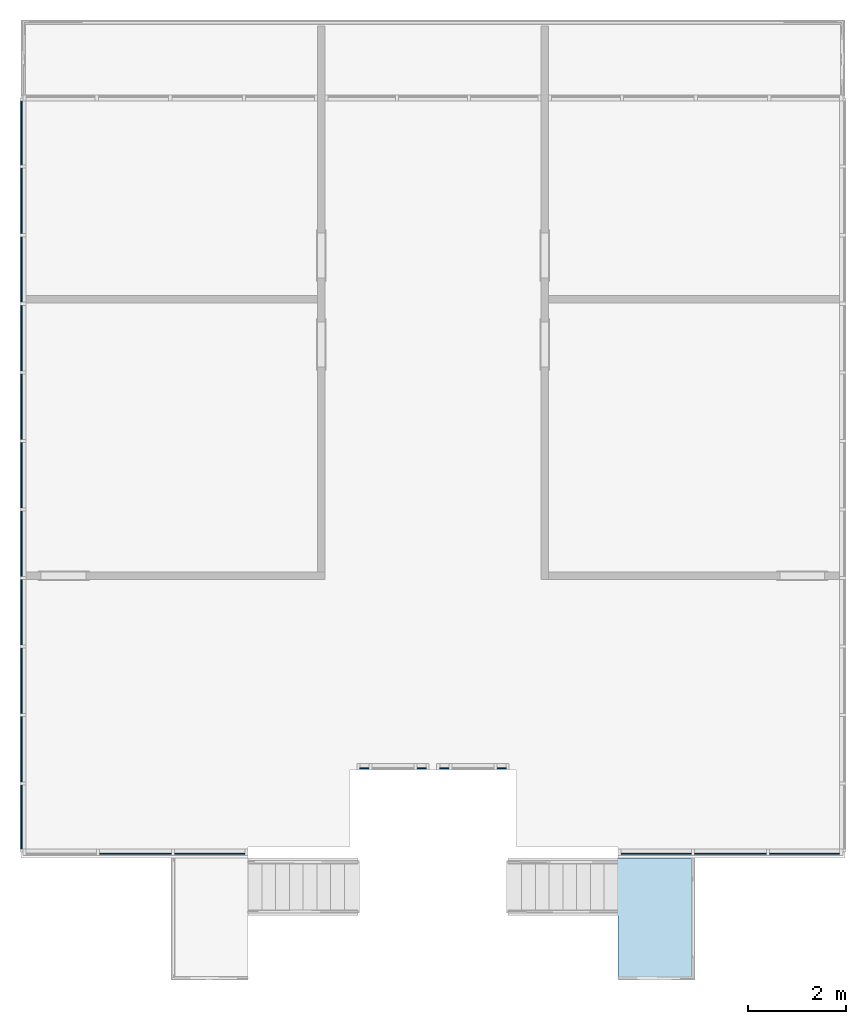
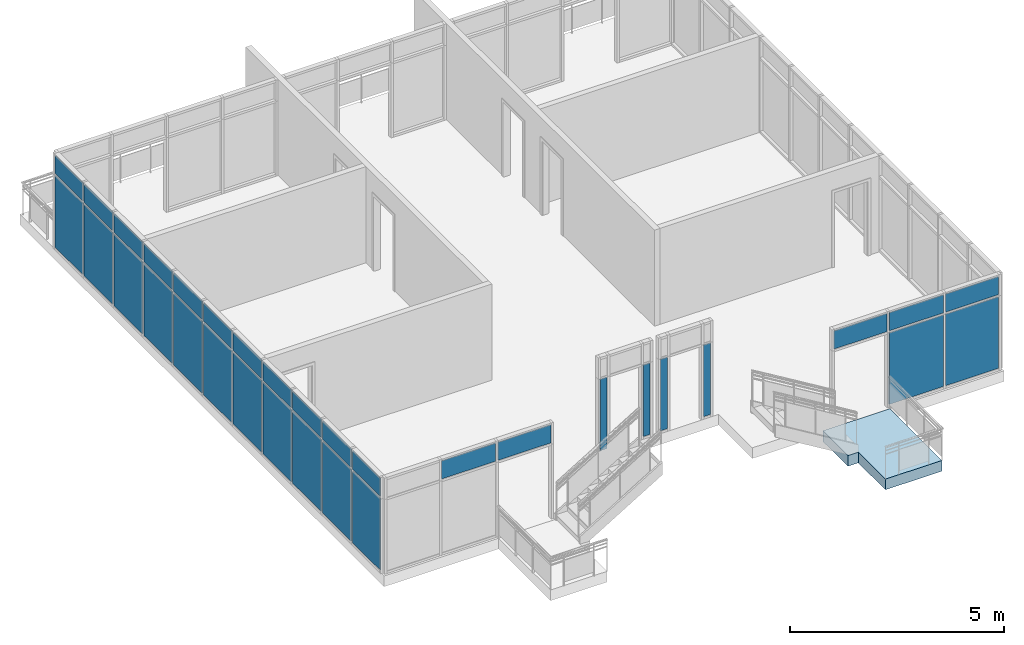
# One storey, part 5 of 11: 33 plates, 1 slab, 5 elements without a shape of their own.
"""IFC2X3 building model written with IfcOpenShell, lengths in feet."""

import ifcopenshell
import ifcopenshell.guid

model = None  # the IFC model being written
_history = None  # IfcOwnerHistory: only IFC2X3 demands one
_inside = {}  # id of a spatial element -> (the spatial element, [elements in it])
_under = {}  # id of a project, library or spatial element -> (it, [spatial elements below it])
_declared = {}  # id of a project -> (the project, [libraries it declares])
_typed = {}  # id of a type object -> (the type object, [elements of that type])
_made_of = {}  # id of a material, layer set ... -> (it, [elements and type objects made of it])


def new_model(schema):
    """Start an empty IFC model of exactly this schema.

    Asked for "IFC4X3", IfcOpenShell would pick the latest addendum, in which some entities
    have other attributes; the version numbers below select the first issue.
    IFC2X3 requires an IfcOwnerHistory on every rooted entity: one is made here for all.
    """
    global model, _history
    if schema == "IFC4X3":
        model = ifcopenshell.file(schema_version=(4, 3, 0, 0))
    else:
        model = ifcopenshell.file(schema=schema)
    _inside.clear()
    _under.clear()
    _declared.clear()
    _typed.clear()
    _made_of.clear()
    _history = None
    if model.schema == "IFC2X3":
        org = make("IfcOrganization", Name="unknown")
        user = make(
            "IfcPersonAndOrganization",
            ThePerson=make("IfcPerson", FamilyName="unknown"),
            TheOrganization=org,
        )
        app = make(
            "IfcApplication",
            ApplicationDeveloper=org,
            Version="unknown",
            ApplicationFullName="unknown",
            ApplicationIdentifier="unknown",
        )
        _history = make(
            "IfcOwnerHistory",
            OwningUser=user,
            OwningApplication=app,
            ChangeAction="ADDED",
            CreationDate=0,
        )
    return model


def make(cls, **values):
    """One entity of the class cls with the attributes given. An attribute that is None is left unset."""
    return model.create_entity(
        cls, **{name: value for name, value in values.items() if value is not None}
    )


def entity(cls, *values):
    """Any entity or typed value of the class cls, its attributes in the order of the schema. None: left unset."""
    e = model.create_entity(cls)
    for i, value in enumerate(values):
        if value is not None:
            e[i] = value
    return e


def rooted(cls, **values):
    """An entity with a GlobalId (a new one), such as an element, a storey or a relation."""
    return make(cls, GlobalId=ifcopenshell.guid.new(), OwnerHistory=_history, **values)


def si_unit(unit_type, name, prefix=None):
    """IfcSIUnit, for example si_unit("LENGTHUNIT", "METRE", prefix="MILLI")."""
    return make("IfcSIUnit", UnitType=unit_type, Prefix=prefix, Name=name)


def converted_unit(unit_type, name, factor, base, dimensions=None, offset=None):
    """IfcConversionBasedUnit, such as the inch: factor (a typed value) times the base unit."""
    return make(
        "IfcConversionBasedUnit"
        if offset is None
        else "IfcConversionBasedUnitWithOffset",
        ConversionOffset=offset,
        Dimensions=None
        if dimensions is None
        else entity("IfcDimensionalExponents", *dimensions),
        UnitType=unit_type,
        Name=name,
        ConversionFactor=make(
            "IfcMeasureWithUnit", ValueComponent=factor, UnitComponent=base
        ),
    )


def derived_unit(unit_type, elements):
    """IfcDerivedUnit: a product of units, each with its exponent."""
    return make(
        "IfcDerivedUnit",
        Elements=[
            make("IfcDerivedUnitElement", Unit=unit, Exponent=power)
            for unit, power in elements
        ],
        UnitType=unit_type,
    )


def assignment(units):
    """IfcUnitAssignment: the units of a project."""
    return None if units is None else make("IfcUnitAssignment", Units=units)


def point(xyz):
    """IfcCartesianPoint."""
    return None if xyz is None else make("IfcCartesianPoint", Coordinates=xyz)


def direction(xyz):
    """IfcDirection."""
    return None if xyz is None else make("IfcDirection", DirectionRatios=xyz)


def frame(location, z_axis=None, x_axis=None):
    """IfcAxis2Placement3D, a coordinate frame: its origin and axes. An axis left out is left unset."""
    return make(
        "IfcAxis2Placement3D",
        Location=point(location),
        Axis=direction(z_axis),
        RefDirection=direction(x_axis),
    )


def frame_2d(location, x_axis=None):
    """IfcAxis2Placement2D, a coordinate frame in the plane: its origin and x axis."""
    return make(
        "IfcAxis2Placement2D", Location=point(location), RefDirection=direction(x_axis)
    )


def origin():
    """The frame at (0, 0, 0) with its axes left unset."""
    return frame((0.0, 0.0, 0.0))


def place(relative_to, where):
    """IfcLocalPlacement: puts the frame where relative to a parent placement (None: the world)."""
    return make(
        "IfcLocalPlacement", PlacementRelTo=relative_to, RelativePlacement=where
    )


def context(
    kind, dimensions, precision=None, world=None, true_north=None, identifier=None
):
    """IfcGeometricRepresentationContext, for example the 3D "Model" context."""
    return make(
        "IfcGeometricRepresentationContext",
        ContextIdentifier=identifier,
        ContextType=kind,
        CoordinateSpaceDimension=dimensions,
        Precision=precision,
        WorldCoordinateSystem=world,
        TrueNorth=true_north,
    )


def subcontext(parent, identifier, kind, view, scale=None):
    """IfcGeometricRepresentationSubContext, for example "Body" below "Model"."""
    return make(
        "IfcGeometricRepresentationSubContext",
        ContextIdentifier=identifier,
        ContextType=kind,
        ParentContext=parent,
        TargetScale=scale,
        TargetView=view,
    )


def project(units=None, contexts=None):
    """IfcProject with its units and contexts."""
    return rooted(
        "IfcProject",
        Name="project",
        RepresentationContexts=contexts,
        UnitsInContext=assignment(units),
    )


def spatial(cls, under=None, at=None, **own):
    """A site, building, storey or space (cls), placed at a placement, below another one or the project."""
    s = rooted(cls, ObjectPlacement=at, **own)
    if under is not None:
        _under.setdefault(under.id(), (under, []))[1].append(s)
    return s


def polyline(points):
    """IfcPolyline through the points."""
    return make("IfcPolyline", Points=[point(p) for p in points])


def profile(cls, at=None, kind="AREA", **sizes):
    """A parametric profile (cls). Its sizes go by their IFC names, for example OverallWidth=200.0."""
    return make(cls, ProfileType=kind, Position=at, **sizes)


def rectangle(**sizes):
    """IfcRectangleProfileDef."""
    return profile("IfcRectangleProfileDef", **sizes)


def outline(outer, holes=None, kind="AREA"):
    """IfcArbitraryClosedProfileDef: a profile drawn as a closed curve; with holes, ...WithVoids."""
    if holes is None:
        return make("IfcArbitraryClosedProfileDef", ProfileType=kind, OuterCurve=outer)
    return make(
        "IfcArbitraryProfileDefWithVoids",
        ProfileType=kind,
        OuterCurve=outer,
        InnerCurves=holes,
    )


def extrude(swept, where, along, depth):
    """IfcExtrudedAreaSolid: the profile swept, set in the frame where, extruded along a direction by depth."""
    return make(
        "IfcExtrudedAreaSolid",
        SweptArea=swept,
        Position=where,
        ExtrudedDirection=direction(along),
        Depth=depth,
    )


def shape(context_of_items, identifier, shape_type, items):
    """IfcShapeRepresentation: the items that make up one representation, for example the "Body"."""
    return make(
        "IfcShapeRepresentation",
        ContextOfItems=context_of_items,
        RepresentationIdentifier=identifier,
        RepresentationType=shape_type,
        Items=items,
    )


def source(mapping_origin, context_of_items, identifier, shape_type, items):
    """IfcRepresentationMap: a shape defined once, which mapped items show again and again."""
    return make(
        "IfcRepresentationMap",
        MappingOrigin=mapping_origin,
        MappedRepresentation=shape(context_of_items, identifier, shape_type, items),
    )


def transform(
    local_origin,
    x_axis=None,
    y_axis=None,
    z_axis=None,
    scale=None,
    scale2=None,
    scale3=None,
    uniform=True,
):
    """IfcCartesianTransformationOperator3D, or its non-uniform kind. x_axis, y_axis, z_axis: its Axis1, 2, 3."""
    if uniform:
        return make(
            "IfcCartesianTransformationOperator3D",
            Axis1=direction(x_axis),
            Axis2=direction(y_axis),
            LocalOrigin=point(local_origin),
            Scale=scale,
            Axis3=direction(z_axis),
        )
    return make(
        "IfcCartesianTransformationOperator3DnonUniform",
        Axis1=direction(x_axis),
        Axis2=direction(y_axis),
        LocalOrigin=point(local_origin),
        Scale=scale,
        Axis3=direction(z_axis),
        Scale2=scale2,
        Scale3=scale3,
    )


def mapped(mapping_source, mapping_target):
    """IfcMappedItem: shows the shape of a source again, moved by a transform."""
    return make(
        "IfcMappedItem", MappingSource=mapping_source, MappingTarget=mapping_target
    )


def material(Name=None, Category=None):
    """IfcMaterial."""
    return make("IfcMaterial", Name=Name, Category=Category)


def layer(
    of_material, thickness, ventilated=None, Name=None, Category=None, Priority=None
):
    """IfcMaterialLayer: one layer of a wall or slab, of a material (None: an air gap)."""
    return make(
        "IfcMaterialLayer",
        Material=of_material,
        LayerThickness=thickness,
        IsVentilated=ventilated,
        Name=Name,
        Category=Category,
        Priority=Priority,
    )


def layer_set(layers, Name=None):
    """IfcMaterialLayerSet."""
    return make("IfcMaterialLayerSet", MaterialLayers=layers, LayerSetName=Name)


def layer_usage(for_layer_set, set_direction, sense, offset, extent=None):
    """IfcMaterialLayerSetUsage: how a layer set lies in its element."""
    return make(
        "IfcMaterialLayerSetUsage",
        ForLayerSet=for_layer_set,
        LayerSetDirection=set_direction,
        DirectionSense=sense,
        OffsetFromReferenceLine=offset,
        ReferenceExtent=extent,
    )


def made_of(thing, what):
    """Note that an element or type object is made of a material, layer set ...; save() writes the relation."""
    if what is not None:
        _made_of.setdefault(what.id(), (what, []))[1].append(thing)
    return thing


def type_object(cls, material=None, **own):
    """A type object (cls), such as IfcWallType, which elements share."""
    return made_of(rooted(cls, **own), material)


def type_shapes(of_type, sources):
    """Give a type object the sources (RepresentationMaps) that its elements show as mapped items."""
    of_type.RepresentationMaps = sources


def element(
    cls,
    number,
    at=None,
    inside=None,
    cuts=None,
    type_object=None,
    material=None,
    context=None,
    identifier="Body",
    shape_type=None,
    held_by="IfcProductDefinitionShape",
    body=None,
    shapes=None,
    **own,
):
    """One element of the class cls, such as IfcWall. Its Tag is "e" and its number.

    at: its placement. inside: the storey or other place that contains it. cuts: it is an
    opening in that element (IfcRelVoidsElement). A single representation is given by context,
    identifier, shape_type and body (its items); several are given by shapes. held_by: the class
    of the entity that holds the representations. save() writes the other relations.
    """
    e = rooted(cls, Tag="e%d" % number, ObjectPlacement=at, **own)
    if body is not None:
        shapes = [shape(context, identifier, shape_type, body)]
    if shapes is not None:
        e.Representation = make(held_by, Representations=shapes)
    if inside is not None:
        _inside.setdefault(inside.id(), (inside, []))[1].append(e)
    if cuts is not None:
        rooted(
            "IfcRelVoidsElement", RelatingBuildingElement=cuts, RelatedOpeningElement=e
        )
    if type_object is not None:
        _typed.setdefault(type_object.id(), (type_object, []))[1].append(e)
    return made_of(e, material)


def aggregate(whole, parts):
    """IfcRelAggregates: a whole, such as a stair, and the parts it consists of."""
    return rooted("IfcRelAggregates", RelatingObject=whole, RelatedObjects=parts)


def save(model, path):
    """Write the relations noted so far, then the file.

    IfcRelAggregates (storeys below a building ...), IfcRelContainedInSpatialStructure (elements
    in a storey), IfcRelDefinesByType, IfcRelAssociatesMaterial and IfcRelDeclares: one each for
    every whole, place, type object, material and project.
    """
    for whole, parts in _under.values():
        aggregate(whole, parts)
    for where, things in _inside.values():
        rooted(
            "IfcRelContainedInSpatialStructure",
            RelatedElements=things,
            RelatingStructure=where,
        )
    for kind, things in _typed.values():
        rooted("IfcRelDefinesByType", RelatedObjects=things, RelatingType=kind)
    for what, things in _made_of.values():
        rooted("IfcRelAssociatesMaterial", RelatedObjects=things, RelatingMaterial=what)
    for by, libraries in _declared.values():
        rooted("IfcRelDeclares", RelatingContext=by, RelatedDefinitions=libraries)
    model.write(path)


model = new_model("IFC2X3")

# Units and contexts
model_context = context("Model", 3, precision=0.0001, world=origin(), true_north=direction((6.12303176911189e-17, 1.0)))
body_context = subcontext(model_context, "Body", "Model", "MODEL_VIEW")
ifc_project = project(units=[converted_unit("LENGTHUNIT", "FOOT", entity("IfcRatioMeasure", 0.3048), si_unit("LENGTHUNIT", "METRE"), dimensions=[1, 0, 0, 0, 0, 0, 0]), converted_unit("AREAUNIT", "SQUARE FOOT", entity("IfcRatioMeasure", 0.09290304), si_unit("AREAUNIT", "SQUARE_METRE"), dimensions=[2, 0, 0, 0, 0, 0, 0]), converted_unit("VOLUMEUNIT", "CUBIC FOOT", entity("IfcRatioMeasure", 0.028316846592), si_unit("VOLUMEUNIT", "CUBIC_METRE"), dimensions=[3, 0, 0, 0, 0, 0, 0]), converted_unit("PLANEANGLEUNIT", "DEGREE", entity("IfcRatioMeasure", 0.0174532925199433), si_unit("PLANEANGLEUNIT", "RADIAN"), dimensions=[0, 0, 0, 0, 0, 0, 0]), si_unit("MASSUNIT", "GRAM", prefix="KILO"), derived_unit("MASSDENSITYUNIT", [(si_unit("MASSUNIT", "GRAM", prefix="KILO"), 1), (si_unit("LENGTHUNIT", "METRE"), -3)]), si_unit("TIMEUNIT", "SECOND"), si_unit("FREQUENCYUNIT", "HERTZ"), si_unit("THERMODYNAMICTEMPERATUREUNIT", "DEGREE_CELSIUS"), derived_unit("THERMALTRANSMITTANCEUNIT", [(si_unit("MASSUNIT", "GRAM", prefix="KILO"), 1), (si_unit("THERMODYNAMICTEMPERATUREUNIT", "KELVIN"), -1), (si_unit("TIMEUNIT", "SECOND"), -3)]), derived_unit("VOLUMETRICFLOWRATEUNIT", [(si_unit("LENGTHUNIT", "METRE"), 3), (si_unit("TIMEUNIT", "SECOND"), -1)]), si_unit("ELECTRICCURRENTUNIT", "AMPERE"), si_unit("ELECTRICVOLTAGEUNIT", "VOLT"), si_unit("POWERUNIT", "WATT"), si_unit("FORCEUNIT", "NEWTON"), si_unit("ILLUMINANCEUNIT", "LUX"), si_unit("LUMINOUSFLUXUNIT", "LUMEN"), si_unit("LUMINOUSINTENSITYUNIT", "CANDELA"), derived_unit("USERDEFINED", [(si_unit("MASSUNIT", "GRAM", prefix="KILO"), -1), (si_unit("LENGTHUNIT", "METRE"), -2), (si_unit("TIMEUNIT", "SECOND"), 3), (si_unit("LUMINOUSFLUXUNIT", "LUMEN"), 1)]), derived_unit("LINEARVELOCITYUNIT", [(si_unit("LENGTHUNIT", "METRE"), 1), (si_unit("TIMEUNIT", "SECOND"), -1)]), si_unit("PRESSUREUNIT", "PASCAL"), derived_unit("USERDEFINED", [(si_unit("LENGTHUNIT", "METRE"), -2), (si_unit("MASSUNIT", "GRAM", prefix="KILO"), 1), (si_unit("TIMEUNIT", "SECOND"), -2)])], contexts=[model_context])

# Site, building, storey
site_placement = place(None, origin())
site = spatial("IfcSite", under=ifc_project, at=site_placement, Name="Default", CompositionType="ELEMENT")
building_placement = place(site_placement, origin())
building = spatial("IfcBuilding", under=site, at=building_placement, CompositionType="ELEMENT")
storey_placement = place(building_placement, frame((0.0, 0.0, 10.0)))
storey = spatial("IfcBuildingStorey", under=building, at=storey_placement, Name="Level 2", CompositionType="ELEMENT", Elevation=9.99999999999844)

# Curtain wall, plate
curtain_wall_type = type_object("IfcCurtainWallType", Name="Curtain Wall:Storefront 2", PredefinedType="NOTDEFINED")
curtain_wall_1_placement = place(storey_placement, frame((0.0, 0.0, -10.0)))
curtain_wall_1 = element("IfcCurtainWall", 1, at=curtain_wall_1_placement, inside=storey, type_object=curtain_wall_type, Name="Curtain Wall:Storefront 2", ObjectType="Curtain Wall:Storefront 2")
ifc_material_1 = material(Name="<Unnamed>")
ifc_layer_1 = layer(ifc_material_1, 0.0833333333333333)
ifc_layer_set_1 = layer_set([ifc_layer_1], Name="Curtain Wall:Storefront")
ifc_layer_usage_1 = layer_usage(ifc_layer_set_1, "AXIS3", "POSITIVE", 0.104166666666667)
plate_type_1 = type_object("IfcPlateType", Name="Glazed", PredefinedType="CURTAIN_PANEL", material=ifc_layer_set_1)
shared_shape_1 = source(origin(), body_context, "Body", "SweptSolid", [
    extrude(rectangle(XDim=0.0833333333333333, YDim=4.6875, at=frame_2d((-6.93889390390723e-18, 0.0), x_axis=(1.0, 0.0))), frame((0.0, 0.104166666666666, 0.0), z_axis=(0.0, 0.0, 1.0), x_axis=(0.0, 1.0, 0.0)), (0.0, 0.0, 1.0), 6.6875),
])
type_shapes(plate_type_1, [shared_shape_1])
plate_1_placement = place(curtain_wall_1_placement, frame((-9.2105794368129, -6.94114126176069, 10.2083333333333), z_axis=(0.0, 0.0, 1.0), x_axis=(-1.0, 0.0, 0.0)))
plate_1 = element("IfcPlate", 2, at=plate_1_placement, type_object=plate_type_1, material=ifc_layer_usage_1, Name="System Panel:Glazed", ObjectType="Glazed", context=body_context, shape_type="MappedRepresentation", body=[
    mapped(shared_shape_1, transform((0.0, 0.0, 0.0), scale=1.0)),
])

curtain_wall_2_placement = place(storey_placement, frame((0.0, 0.0, -10.0)))
curtain_wall_2 = element("IfcCurtainWall", 3, at=curtain_wall_2_placement, inside=storey, type_object=curtain_wall_type, Name="Curtain Wall:Storefront 2", ObjectType="Curtain Wall:Storefront 2")
ifc_layer_usage_2 = layer_usage(ifc_layer_set_1, "AXIS3", "POSITIVE", 0.104166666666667)
plate_type_2 = type_object("IfcPlateType", Name="Glazed", PredefinedType="CURTAIN_PANEL", material=ifc_layer_set_1)
shared_shape_2 = source(origin(), body_context, "Body", "SweptSolid", [
    extrude(rectangle(XDim=0.0833333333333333, YDim=4.6875, at=frame_2d((-6.93889390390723e-18, 0.0), x_axis=(1.0, 0.0))), frame((0.0, 0.104166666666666, 0.0), z_axis=(0.0, 0.0, 1.0), x_axis=(0.0, 1.0, 0.0)), (0.0, 0.0, 1.0), 1.6875),
])
type_shapes(plate_type_2, [shared_shape_2])
plate_2_placement = place(curtain_wall_2_placement, frame((-48.8772461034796, -6.94114126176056, 17.1041666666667), z_axis=(0.0, 0.0, 1.0), x_axis=(-1.0, 0.0, 0.0)))
plate_2 = element("IfcPlate", 4, at=plate_2_placement, type_object=plate_type_2, material=ifc_layer_usage_2, Name="System Panel:Glazed", ObjectType="Glazed", context=body_context, shape_type="MappedRepresentation", body=[
    mapped(shared_shape_2, transform((0.0, 0.0, 0.0), scale=1.0)),
])

# Plate
ifc_layer_usage_3 = layer_usage(ifc_layer_set_1, "AXIS3", "POSITIVE", 0.104166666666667)
plate_3_placement = place(curtain_wall_1_placement, frame((-9.2105794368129, -6.94114126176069, 17.1041666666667), z_axis=(0.0, 0.0, 1.0), x_axis=(-1.0, 0.0, 0.0)))
plate_3 = element("IfcPlate", 5, at=plate_3_placement, type_object=plate_type_2, material=ifc_layer_usage_3, Name="System Panel:Glazed", ObjectType="Glazed", context=body_context, shape_type="MappedRepresentation", body=[
    mapped(shared_shape_2, transform((0.0, 0.0, 0.0), scale=1.0)),
])

ifc_layer_usage_4 = layer_usage(ifc_layer_set_1, "AXIS3", "POSITIVE", 0.104166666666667)
plate_4_placement = place(curtain_wall_1_placement, frame((-19.1064127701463, -6.94114126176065, 17.1041666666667), z_axis=(0.0, 0.0, 1.0), x_axis=(-1.0, 0.0, 0.0)))
plate_4 = element("IfcPlate", 6, at=plate_4_placement, type_object=plate_type_2, material=ifc_layer_usage_4, Name="System Panel:Glazed", ObjectType="Glazed", context=body_context, shape_type="MappedRepresentation", body=[
    mapped(shared_shape_2, transform((0.0, 0.0, 0.0), scale=1.0)),
])

ifc_layer_usage_5 = layer_usage(ifc_layer_set_1, "AXIS3", "POSITIVE", 0.104166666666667)
plate_type_3 = type_object("IfcPlateType", Name="Glazed", PredefinedType="CURTAIN_PANEL", material=ifc_layer_set_1)
shared_shape_3 = source(origin(), body_context, "Body", "SweptSolid", [
    extrude(rectangle(XDim=0.0833333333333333, YDim=4.79166666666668, at=frame_2d((-6.93889390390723e-18, 0.0), x_axis=(1.0, 0.0))), frame((0.0, 0.104166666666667, 0.0), z_axis=(0.0, 0.0, 1.0), x_axis=(0.0, 1.0, 0.0)), (0.0, 0.0, 1.0), 1.6875),
])
type_shapes(plate_type_3, [shared_shape_3])
plate_5_placement = place(curtain_wall_2_placement, frame((-53.8251627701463, -6.94114126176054, 17.1041666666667), z_axis=(0.0, 0.0, 1.0), x_axis=(-1.0, 0.0, 0.0)))
plate_5 = element("IfcPlate", 7, at=plate_5_placement, type_object=plate_type_3, material=ifc_layer_usage_5, Name="System Panel:Glazed", ObjectType="Glazed", context=body_context, shape_type="MappedRepresentation", body=[
    mapped(shared_shape_3, transform((0.0, 0.0, 0.0), scale=1.0)),
])

aggregate(curtain_wall_2, [plate_2, plate_5])

ifc_layer_usage_6 = layer_usage(ifc_layer_set_1, "AXIS3", "POSITIVE", 0.104166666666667)
plate_6_placement = place(curtain_wall_1_placement, frame((-14.1584961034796, -6.94114126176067, 17.1041666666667), z_axis=(0.0, 0.0, 1.0), x_axis=(-1.0, 0.0, 0.0)))
plate_6 = element("IfcPlate", 8, at=plate_6_placement, type_object=plate_type_3, material=ifc_layer_usage_6, Name="System Panel:Glazed", ObjectType="Glazed", context=body_context, shape_type="MappedRepresentation", body=[
    mapped(shared_shape_3, transform((0.0, 0.0, 0.0), scale=1.0)),
])

# Curtain wall, plates
curtain_wall_3_placement = place(storey_placement, frame((0.0, 0.0, -10.0)))
curtain_wall_3 = element("IfcCurtainWall", 9, at=curtain_wall_3_placement, inside=storey, type_object=curtain_wall_type, Name="Curtain Wall:Storefront 2", ObjectType="Curtain Wall:Storefront 2")
ifc_layer_usage_7 = layer_usage(ifc_layer_set_1, "AXIS3", "POSITIVE", 0.104166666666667)
plate_type_4 = type_object("IfcPlateType", Name="Glazed", PredefinedType="CURTAIN_PANEL", material=ifc_layer_set_1)
shared_shape_4 = source(origin(), body_context, "Body", "SweptSolid", [
    extrude(rectangle(XDim=0.0833333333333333, YDim=0.604166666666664, at=frame_2d((-6.93889390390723e-18, -2.77555756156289e-17), x_axis=(1.0, 0.0))), frame((0.0, 0.104166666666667, 0.0), z_axis=(0.0, 0.0, 1.0), x_axis=(0.0, 1.0, 0.0)), (0.0, 0.0, 1.0), 6.6875),
])
type_shapes(plate_type_4, [shared_shape_4])
plate_7_placement = place(curtain_wall_3_placement, frame((-34.7522461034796, -1.23280792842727, 10.2083333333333), z_axis=(0.0, 0.0, 1.0), x_axis=(-1.0, 0.0, 0.0)))
plate_7 = element("IfcPlate", 10, at=plate_7_placement, type_object=plate_type_4, material=ifc_layer_usage_7, Name="System Panel:Glazed", ObjectType="Glazed", context=body_context, shape_type="MappedRepresentation", body=[
    mapped(shared_shape_4, transform((0.0, 0.0, 0.0), scale=1.0)),
])
ifc_layer_usage_8 = layer_usage(ifc_layer_set_1, "AXIS3", "POSITIVE", 0.104166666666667)
plate_8_placement = place(curtain_wall_3_placement, frame((-38.5647461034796, -1.23280792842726, 10.2083333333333), z_axis=(0.0, 0.0, 1.0), x_axis=(-1.0, 0.0, 0.0)))
plate_8 = element("IfcPlate", 11, at=plate_8_placement, type_object=plate_type_4, material=ifc_layer_usage_8, Name="System Panel:Glazed", ObjectType="Glazed", context=body_context, shape_type="MappedRepresentation", body=[
    mapped(shared_shape_4, transform((0.0, 0.0, 0.0), scale=1.0)),
])
aggregate(curtain_wall_3, [plate_7, plate_8])

curtain_wall_4_placement = place(storey_placement, frame((0.0, 0.0, -10.0)))
curtain_wall_4 = element("IfcCurtainWall", 12, at=curtain_wall_4_placement, inside=storey, type_object=curtain_wall_type, Name="Curtain Wall:Storefront 2", ObjectType="Curtain Wall:Storefront 2")
ifc_layer_usage_9 = layer_usage(ifc_layer_set_1, "AXIS3", "POSITIVE", 0.104166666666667)
plate_9_placement = place(curtain_wall_4_placement, frame((-29.4189127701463, -1.23280792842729, 10.2083333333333), z_axis=(0.0, 0.0, 1.0), x_axis=(-1.0, 0.0, 0.0)))
plate_9 = element("IfcPlate", 13, at=plate_9_placement, type_object=plate_type_4, material=ifc_layer_usage_9, Name="System Panel:Glazed", ObjectType="Glazed", context=body_context, shape_type="MappedRepresentation", body=[
    mapped(shared_shape_4, transform((0.0, 0.0, 0.0), scale=1.0)),
])
ifc_layer_usage_10 = layer_usage(ifc_layer_set_1, "AXIS3", "POSITIVE", 0.104166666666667)
plate_10_placement = place(curtain_wall_4_placement, frame((-33.2314127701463, -1.23280792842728, 10.2083333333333), z_axis=(0.0, 0.0, 1.0), x_axis=(-1.0, 0.0, 0.0)))
plate_10 = element("IfcPlate", 14, at=plate_10_placement, type_object=plate_type_4, material=ifc_layer_usage_10, Name="System Panel:Glazed", ObjectType="Glazed", context=body_context, shape_type="MappedRepresentation", body=[
    mapped(shared_shape_4, transform((0.0, 0.0, 0.0), scale=1.0)),
])
aggregate(curtain_wall_4, [plate_9, plate_10])

# Plate
ifc_layer_usage_11 = layer_usage(ifc_layer_set_1, "AXIS3", "POSITIVE", 0.104166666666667)
plate_type_5 = type_object("IfcPlateType", Name="Glazed", PredefinedType="CURTAIN_PANEL", material=ifc_layer_set_1)
shared_shape_5 = source(origin(), body_context, "Body", "SweptSolid", [
    extrude(rectangle(XDim=0.0833333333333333, YDim=4.79166666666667, at=frame_2d((-6.93889390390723e-18, 0.0), x_axis=(1.0, 0.0))), frame((0.0, 0.104166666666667, 0.0), z_axis=(0.0, 0.0, 1.0), x_axis=(0.0, 1.0, 0.0)), (0.0, 0.0, 1.0), 6.6875),
])
type_shapes(plate_type_5, [shared_shape_5])
plate_11_placement = place(curtain_wall_1_placement, frame((-14.1584961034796, -6.94114126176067, 10.2083333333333), z_axis=(0.0, 0.0, 1.0), x_axis=(-1.0, 0.0, 0.0)))
plate_11 = element("IfcPlate", 15, at=plate_11_placement, type_object=plate_type_5, material=ifc_layer_usage_11, Name="System Panel:Glazed", ObjectType="Glazed", context=body_context, shape_type="MappedRepresentation", body=[
    mapped(shared_shape_5, transform((0.0, 0.0, 0.0), scale=1.0)),
])

aggregate(curtain_wall_1, [plate_1, plate_11, plate_3, plate_6, plate_4])

# Curtain wall, plates
curtain_wall_5_placement = place(storey_placement, frame((0.0, 0.0, -10.0)))
curtain_wall_5 = element("IfcCurtainWall", 16, at=curtain_wall_5_placement, inside=storey, type_object=curtain_wall_type, Name="Curtain Wall:Storefront 2", ObjectType="Curtain Wall:Storefront 2")
ifc_layer_usage_12 = layer_usage(ifc_layer_set_1, "AXIS3", "POSITIVE", 0.104166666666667)
plate_type_6 = type_object("IfcPlateType", Name="Glazed", PredefinedType="CURTAIN_PANEL", material=ifc_layer_set_1)
shared_shape_6 = source(origin(), body_context, "Body", "SweptSolid", [
    extrude(rectangle(XDim=0.0833333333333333, YDim=4.25946969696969, at=frame_2d((-6.93889390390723e-18, 0.0), x_axis=(1.0, 0.0))), frame((0.0, 0.104166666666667, 0.0), z_axis=(0.0, 0.0, 1.0), x_axis=(0.0, 1.0, 0.0)), (0.0, 0.0, 1.0), 6.6875),
])
type_shapes(plate_type_6, [shared_shape_6])
plate_12_placement = place(curtain_wall_5_placement, frame((-61.3251627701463, -4.60307307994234, 10.2083333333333), z_axis=(0.0, 0.0, 1.0), x_axis=(0.0, 1.0, 0.0)))
plate_12 = element("IfcPlate", 17, at=plate_12_placement, type_object=plate_type_6, material=ifc_layer_usage_12, Name="System Panel:Glazed", ObjectType="Glazed", context=body_context, shape_type="MappedRepresentation", body=[
    mapped(shared_shape_6, transform((0.0, 0.0, 0.0), scale=1.0)),
])
ifc_layer_usage_13 = layer_usage(ifc_layer_set_1, "AXIS3", "POSITIVE", 0.104166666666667)
plate_13_placement = place(curtain_wall_5_placement, frame((-61.3251627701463, 41.0124572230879, 10.2083333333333), z_axis=(0.0, 0.0, 1.0), x_axis=(0.0, 1.0, 0.0)))
plate_13 = element("IfcPlate", 18, at=plate_13_placement, type_object=plate_type_6, material=ifc_layer_usage_13, Name="System Panel:Glazed", ObjectType="Glazed", context=body_context, shape_type="MappedRepresentation", body=[
    mapped(shared_shape_6, transform((0.0, 0.0, 0.0), scale=1.0)),
])
ifc_layer_usage_14 = layer_usage(ifc_layer_set_1, "AXIS3", "POSITIVE", 0.104166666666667)
plate_type_7 = type_object("IfcPlateType", Name="Glazed", PredefinedType="CURTAIN_PANEL", material=ifc_layer_set_1)
shared_shape_7 = source(origin(), body_context, "Body", "SweptSolid", [
    extrude(rectangle(XDim=0.0833333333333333, YDim=4.36363636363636, at=frame_2d((-6.93889390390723e-18, 0.0), x_axis=(1.0, 0.0))), frame((0.0, 0.104166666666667, 0.0), z_axis=(0.0, 0.0, 1.0), x_axis=(0.0, 1.0, 0.0)), (0.0, 0.0, 1.0), 6.6875),
])
type_shapes(plate_type_7, [shared_shape_7])
plate_14_placement = place(curtain_wall_5_placement, frame((-61.3251627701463, -0.0831867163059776, 10.2083333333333), z_axis=(0.0, 0.0, 1.0), x_axis=(0.0, 1.0, 0.0)))
plate_14 = element("IfcPlate", 19, at=plate_14_placement, type_object=plate_type_7, material=ifc_layer_usage_14, Name="System Panel:Glazed", ObjectType="Glazed", context=body_context, shape_type="MappedRepresentation", body=[
    mapped(shared_shape_7, transform((0.0, 0.0, 0.0), scale=1.0)),
])
ifc_layer_usage_15 = layer_usage(ifc_layer_set_1, "AXIS3", "POSITIVE", 0.104166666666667)
plate_15_placement = place(curtain_wall_5_placement, frame((-61.3251627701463, 4.48878298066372, 10.2083333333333), z_axis=(0.0, 0.0, 1.0), x_axis=(0.0, 1.0, 0.0)))
plate_15 = element("IfcPlate", 20, at=plate_15_placement, type_object=plate_type_7, material=ifc_layer_usage_15, Name="System Panel:Glazed", ObjectType="Glazed", context=body_context, shape_type="MappedRepresentation", body=[
    mapped(shared_shape_7, transform((0.0, 0.0, 0.0), scale=1.0)),
])
ifc_layer_usage_16 = layer_usage(ifc_layer_set_1, "AXIS3", "POSITIVE", 0.104166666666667)
plate_16_placement = place(curtain_wall_5_placement, frame((-61.3251627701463, 9.06075267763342, 10.2083333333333), z_axis=(0.0, 0.0, 1.0), x_axis=(0.0, 1.0, 0.0)))
plate_16 = element("IfcPlate", 21, at=plate_16_placement, type_object=plate_type_7, material=ifc_layer_usage_16, Name="System Panel:Glazed", ObjectType="Glazed", context=body_context, shape_type="MappedRepresentation", body=[
    mapped(shared_shape_7, transform((0.0, 0.0, 0.0), scale=1.0)),
])
ifc_layer_usage_17 = layer_usage(ifc_layer_set_1, "AXIS3", "POSITIVE", 0.104166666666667)
plate_17_placement = place(curtain_wall_5_placement, frame((-61.3251627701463, 13.6327223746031, 10.2083333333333), z_axis=(0.0, 0.0, 1.0), x_axis=(0.0, 1.0, 0.0)))
plate_17 = element("IfcPlate", 22, at=plate_17_placement, type_object=plate_type_7, material=ifc_layer_usage_17, Name="System Panel:Glazed", ObjectType="Glazed", context=body_context, shape_type="MappedRepresentation", body=[
    mapped(shared_shape_7, transform((0.0, 0.0, 0.0), scale=1.0)),
])
ifc_layer_usage_18 = layer_usage(ifc_layer_set_1, "AXIS3", "POSITIVE", 0.104166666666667)
plate_18_placement = place(curtain_wall_5_placement, frame((-61.3251627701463, 18.2046920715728, 10.2083333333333), z_axis=(0.0, 0.0, 1.0), x_axis=(0.0, 1.0, 0.0)))
plate_18 = element("IfcPlate", 23, at=plate_18_placement, type_object=plate_type_7, material=ifc_layer_usage_18, Name="System Panel:Glazed", ObjectType="Glazed", context=body_context, shape_type="MappedRepresentation", body=[
    mapped(shared_shape_7, transform((0.0, 0.0, 0.0), scale=1.0)),
])
ifc_layer_usage_19 = layer_usage(ifc_layer_set_1, "AXIS3", "POSITIVE", 0.104166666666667)
plate_19_placement = place(curtain_wall_5_placement, frame((-61.3251627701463, 22.7766617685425, 10.2083333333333), z_axis=(0.0, 0.0, 1.0), x_axis=(0.0, 1.0, 0.0)))
plate_19 = element("IfcPlate", 24, at=plate_19_placement, type_object=plate_type_7, material=ifc_layer_usage_19, Name="System Panel:Glazed", ObjectType="Glazed", context=body_context, shape_type="MappedRepresentation", body=[
    mapped(shared_shape_7, transform((0.0, 0.0, 0.0), scale=1.0)),
])
ifc_layer_usage_20 = layer_usage(ifc_layer_set_1, "AXIS3", "POSITIVE", 0.104166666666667)
plate_20_placement = place(curtain_wall_5_placement, frame((-61.3251627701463, 27.3486314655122, 10.2083333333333), z_axis=(0.0, 0.0, 1.0), x_axis=(0.0, 1.0, 0.0)))
plate_20 = element("IfcPlate", 25, at=plate_20_placement, type_object=plate_type_7, material=ifc_layer_usage_20, Name="System Panel:Glazed", ObjectType="Glazed", context=body_context, shape_type="MappedRepresentation", body=[
    mapped(shared_shape_7, transform((0.0, 0.0, 0.0), scale=1.0)),
])
ifc_layer_usage_21 = layer_usage(ifc_layer_set_1, "AXIS3", "POSITIVE", 0.104166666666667)
plate_21_placement = place(curtain_wall_5_placement, frame((-61.3251627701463, 31.9206011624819, 10.2083333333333), z_axis=(0.0, 0.0, 1.0), x_axis=(0.0, 1.0, 0.0)))
plate_21 = element("IfcPlate", 26, at=plate_21_placement, type_object=plate_type_7, material=ifc_layer_usage_21, Name="System Panel:Glazed", ObjectType="Glazed", context=body_context, shape_type="MappedRepresentation", body=[
    mapped(shared_shape_7, transform((0.0, 0.0, 0.0), scale=1.0)),
])
ifc_layer_usage_22 = layer_usage(ifc_layer_set_1, "AXIS3", "POSITIVE", 0.104166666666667)
plate_22_placement = place(curtain_wall_5_placement, frame((-61.3251627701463, 36.4925708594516, 10.2083333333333), z_axis=(0.0, 0.0, 1.0), x_axis=(0.0, 1.0, 0.0)))
plate_22 = element("IfcPlate", 27, at=plate_22_placement, type_object=plate_type_7, material=ifc_layer_usage_22, Name="System Panel:Glazed", ObjectType="Glazed", context=body_context, shape_type="MappedRepresentation", body=[
    mapped(shared_shape_7, transform((0.0, 0.0, 0.0), scale=1.0)),
])
ifc_layer_usage_23 = layer_usage(ifc_layer_set_1, "AXIS3", "POSITIVE", 0.104166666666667)
plate_type_8 = type_object("IfcPlateType", Name="Glazed", PredefinedType="CURTAIN_PANEL", material=ifc_layer_set_1)
shared_shape_8 = source(origin(), body_context, "Body", "SweptSolid", [
    extrude(rectangle(XDim=0.0833333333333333, YDim=4.2594696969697, at=frame_2d((-6.93889390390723e-18, 0.0), x_axis=(1.0, 0.0))), frame((0.0, 0.104166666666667, 0.0), z_axis=(0.0, 0.0, 1.0), x_axis=(0.0, 1.0, 0.0)), (0.0, 0.0, 1.0), 1.6875),
])
type_shapes(plate_type_8, [shared_shape_8])
plate_23_placement = place(curtain_wall_5_placement, frame((-61.3251627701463, -4.60307307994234, 17.1041666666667), z_axis=(0.0, 0.0, 1.0), x_axis=(0.0, 1.0, 0.0)))
plate_23 = element("IfcPlate", 28, at=plate_23_placement, type_object=plate_type_8, material=ifc_layer_usage_23, Name="System Panel:Glazed", ObjectType="Glazed", context=body_context, shape_type="MappedRepresentation", body=[
    mapped(shared_shape_8, transform((0.0, 0.0, 0.0), scale=1.0)),
])
ifc_layer_usage_24 = layer_usage(ifc_layer_set_1, "AXIS3", "POSITIVE", 0.104166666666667)
plate_24_placement = place(curtain_wall_5_placement, frame((-61.3251627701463, 41.0124572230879, 17.1041666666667), z_axis=(0.0, 0.0, 1.0), x_axis=(0.0, 1.0, 0.0)))
plate_24 = element("IfcPlate", 29, at=plate_24_placement, type_object=plate_type_8, material=ifc_layer_usage_24, Name="System Panel:Glazed", ObjectType="Glazed", context=body_context, shape_type="MappedRepresentation", body=[
    mapped(shared_shape_8, transform((0.0, 0.0, 0.0), scale=1.0)),
])
ifc_layer_usage_25 = layer_usage(ifc_layer_set_1, "AXIS3", "POSITIVE", 0.104166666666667)
plate_type_9 = type_object("IfcPlateType", Name="Glazed", PredefinedType="CURTAIN_PANEL", material=ifc_layer_set_1)
shared_shape_9 = source(origin(), body_context, "Body", "SweptSolid", [
    extrude(rectangle(XDim=0.0833333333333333, YDim=4.36363636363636, at=frame_2d((-6.93889390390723e-18, 0.0), x_axis=(1.0, 0.0))), frame((0.0, 0.104166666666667, 0.0), z_axis=(0.0, 0.0, 1.0), x_axis=(0.0, 1.0, 0.0)), (0.0, 0.0, 1.0), 1.6875),
])
type_shapes(plate_type_9, [shared_shape_9])
plate_25_placement = place(curtain_wall_5_placement, frame((-61.3251627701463, -0.0831867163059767, 17.1041666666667), z_axis=(0.0, 0.0, 1.0), x_axis=(0.0, 1.0, 0.0)))
plate_25 = element("IfcPlate", 30, at=plate_25_placement, type_object=plate_type_9, material=ifc_layer_usage_25, Name="System Panel:Glazed", ObjectType="Glazed", context=body_context, shape_type="MappedRepresentation", body=[
    mapped(shared_shape_9, transform((0.0, 0.0, 0.0), scale=1.0)),
])
ifc_layer_usage_26 = layer_usage(ifc_layer_set_1, "AXIS3", "POSITIVE", 0.104166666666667)
plate_26_placement = place(curtain_wall_5_placement, frame((-61.3251627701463, 4.48878298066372, 17.1041666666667), z_axis=(0.0, 0.0, 1.0), x_axis=(0.0, 1.0, 0.0)))
plate_26 = element("IfcPlate", 31, at=plate_26_placement, type_object=plate_type_9, material=ifc_layer_usage_26, Name="System Panel:Glazed", ObjectType="Glazed", context=body_context, shape_type="MappedRepresentation", body=[
    mapped(shared_shape_9, transform((0.0, 0.0, 0.0), scale=1.0)),
])
ifc_layer_usage_27 = layer_usage(ifc_layer_set_1, "AXIS3", "POSITIVE", 0.104166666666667)
plate_27_placement = place(curtain_wall_5_placement, frame((-61.3251627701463, 9.06075267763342, 17.1041666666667), z_axis=(0.0, 0.0, 1.0), x_axis=(0.0, 1.0, 0.0)))
plate_27 = element("IfcPlate", 32, at=plate_27_placement, type_object=plate_type_9, material=ifc_layer_usage_27, Name="System Panel:Glazed", ObjectType="Glazed", context=body_context, shape_type="MappedRepresentation", body=[
    mapped(shared_shape_9, transform((0.0, 0.0, 0.0), scale=1.0)),
])
ifc_layer_usage_28 = layer_usage(ifc_layer_set_1, "AXIS3", "POSITIVE", 0.104166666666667)
plate_28_placement = place(curtain_wall_5_placement, frame((-61.3251627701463, 13.6327223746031, 17.1041666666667), z_axis=(0.0, 0.0, 1.0), x_axis=(0.0, 1.0, 0.0)))
plate_28 = element("IfcPlate", 33, at=plate_28_placement, type_object=plate_type_9, material=ifc_layer_usage_28, Name="System Panel:Glazed", ObjectType="Glazed", context=body_context, shape_type="MappedRepresentation", body=[
    mapped(shared_shape_9, transform((0.0, 0.0, 0.0), scale=1.0)),
])
ifc_layer_usage_29 = layer_usage(ifc_layer_set_1, "AXIS3", "POSITIVE", 0.104166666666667)
plate_29_placement = place(curtain_wall_5_placement, frame((-61.3251627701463, 18.2046920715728, 17.1041666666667), z_axis=(0.0, 0.0, 1.0), x_axis=(0.0, 1.0, 0.0)))
plate_29 = element("IfcPlate", 34, at=plate_29_placement, type_object=plate_type_9, material=ifc_layer_usage_29, Name="System Panel:Glazed", ObjectType="Glazed", context=body_context, shape_type="MappedRepresentation", body=[
    mapped(shared_shape_9, transform((0.0, 0.0, 0.0), scale=1.0)),
])
ifc_layer_usage_30 = layer_usage(ifc_layer_set_1, "AXIS3", "POSITIVE", 0.104166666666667)
plate_30_placement = place(curtain_wall_5_placement, frame((-61.3251627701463, 22.7766617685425, 17.1041666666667), z_axis=(0.0, 0.0, 1.0), x_axis=(0.0, 1.0, 0.0)))
plate_30 = element("IfcPlate", 35, at=plate_30_placement, type_object=plate_type_9, material=ifc_layer_usage_30, Name="System Panel:Glazed", ObjectType="Glazed", context=body_context, shape_type="MappedRepresentation", body=[
    mapped(shared_shape_9, transform((0.0, 0.0, 0.0), scale=1.0)),
])
ifc_layer_usage_31 = layer_usage(ifc_layer_set_1, "AXIS3", "POSITIVE", 0.104166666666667)
plate_31_placement = place(curtain_wall_5_placement, frame((-61.3251627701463, 27.3486314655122, 17.1041666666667), z_axis=(0.0, 0.0, 1.0), x_axis=(0.0, 1.0, 0.0)))
plate_31 = element("IfcPlate", 36, at=plate_31_placement, type_object=plate_type_9, material=ifc_layer_usage_31, Name="System Panel:Glazed", ObjectType="Glazed", context=body_context, shape_type="MappedRepresentation", body=[
    mapped(shared_shape_9, transform((0.0, 0.0, 0.0), scale=1.0)),
])
ifc_layer_usage_32 = layer_usage(ifc_layer_set_1, "AXIS3", "POSITIVE", 0.104166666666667)
plate_32_placement = place(curtain_wall_5_placement, frame((-61.3251627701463, 31.9206011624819, 17.1041666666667), z_axis=(0.0, 0.0, 1.0), x_axis=(0.0, 1.0, 0.0)))
plate_32 = element("IfcPlate", 37, at=plate_32_placement, type_object=plate_type_9, material=ifc_layer_usage_32, Name="System Panel:Glazed", ObjectType="Glazed", context=body_context, shape_type="MappedRepresentation", body=[
    mapped(shared_shape_9, transform((0.0, 0.0, 0.0), scale=1.0)),
])
ifc_layer_usage_33 = layer_usage(ifc_layer_set_1, "AXIS3", "POSITIVE", 0.104166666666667)
plate_33_placement = place(curtain_wall_5_placement, frame((-61.3251627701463, 36.4925708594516, 17.1041666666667), z_axis=(0.0, 0.0, 1.0), x_axis=(0.0, 1.0, 0.0)))
plate_33 = element("IfcPlate", 38, at=plate_33_placement, type_object=plate_type_9, material=ifc_layer_usage_33, Name="System Panel:Glazed", ObjectType="Glazed", context=body_context, shape_type="MappedRepresentation", body=[
    mapped(shared_shape_9, transform((0.0, 0.0, 0.0), scale=1.0)),
])
aggregate(curtain_wall_5, [plate_12, plate_14, plate_15, plate_16, plate_17, plate_18, plate_19, plate_20, plate_21, plate_22, plate_13, plate_23, plate_25, plate_26, plate_27, plate_28, plate_29, plate_30, plate_31, plate_32, plate_33, plate_24])

# Slab
ifc_material_2 = material(Name="Concrete, Cast-in-Place gray")
ifc_layer_2 = layer(ifc_material_2, 1.0)
ifc_layer_set_2 = layer_set([ifc_layer_2], Name="Floor:Generic - 12\"")
ifc_layer_usage_34 = layer_usage(ifc_layer_set_2, "AXIS3", "POSITIVE", 0.0)
slab_placement = place(storey_placement, origin())
element("IfcSlab", 39, at=slab_placement, inside=storey, material=ifc_layer_usage_34, Name="Floor:Generic - 12\"", ObjectType="Floor:Generic - 12\"", PredefinedType="FLOOR", context=body_context, shape_type="SweptSolid", body=[
    extrude(outline(polyline([(0.111111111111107, -2.27777777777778), (3.94444444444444, -2.27777777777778), (3.94444444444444, 3.63888888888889), (-4.05555555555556, 3.63888888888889), (-4.05555555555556, -1.3611111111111), (0.111111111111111, -1.36111111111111), (0.111111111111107, -2.27777777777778)])), frame((-20.2973849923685, -11.2814190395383, 0.0), z_axis=(0.0, 0.0, -1.0), x_axis=(0.0, 1.0, 0.0)), (0.0, 0.0, 1.0), 1.0),
])

save(model, "model.ifc")
